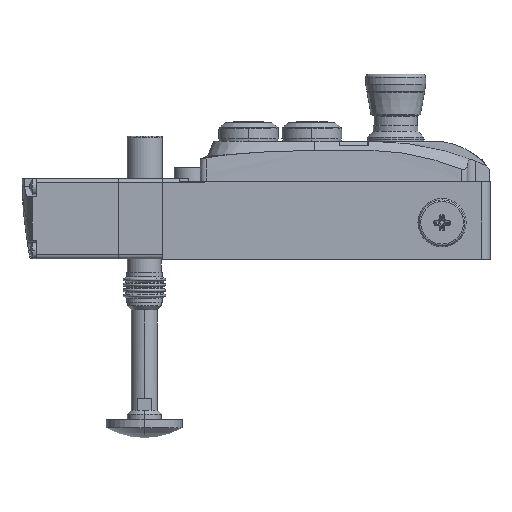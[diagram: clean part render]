
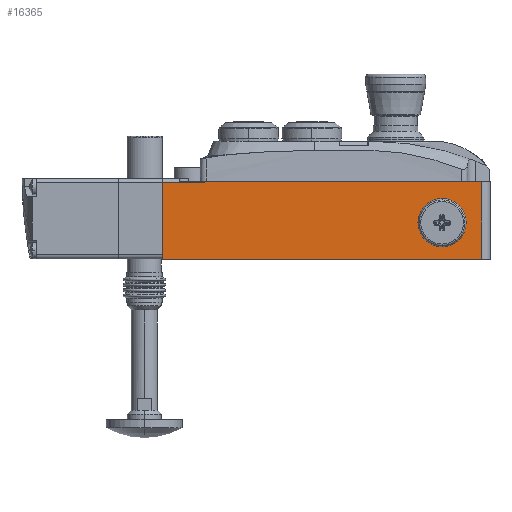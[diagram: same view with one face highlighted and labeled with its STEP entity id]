
A CAD part, left-side view. The second image highlights one B-rep face of the part: STEP entity #16365.
In plain terms, the highlighted planar face has unit normal (-1, 0, 0) as drawn and (0, -1, 0) by its records, which use the part's own axes.
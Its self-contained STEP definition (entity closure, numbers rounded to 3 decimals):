
#64 = ORIENTED_EDGE ( 'NONE', *, *, #23593, .F. ) ;
#246 = CARTESIAN_POINT ( 'NONE',  ( 5.5, -20., -18. ) ) ;
#284 = VECTOR ( 'NONE', #18422, 1000. ) ;
#333 = PLANE ( 'NONE',  #28916 ) ;
#353 = VECTOR ( 'NONE', #8007, 1000. ) ;
#641 = AXIS2_PLACEMENT_3D ( 'NONE', #3832, #28413, #3385 ) ;
#821 = EDGE_CURVE ( 'NONE', #14550, #4386, #18163, .T. ) ;
#1418 = ORIENTED_EDGE ( 'NONE', *, *, #4821, .T. ) ;
#1439 = CARTESIAN_POINT ( 'NONE',  ( 13.9, -20., 20.3 ) ) ;
#1630 = CARTESIAN_POINT ( 'NONE',  ( -145.4, -20., -18.5 ) ) ;
#2330 = CARTESIAN_POINT ( 'NONE',  ( -125.5, -20., -8. ) ) ;
#2427 = CARTESIAN_POINT ( 'NONE',  ( 13.9, -20., 20.3 ) ) ;
#2690 = ORIENTED_EDGE ( 'NONE', *, *, #4593, .T. ) ;
#2726 = CARTESIAN_POINT ( 'NONE',  ( -145.4, -20., 20.3 ) ) ;
#3341 = VERTEX_POINT ( 'NONE', #9627 ) ;
#3385 = DIRECTION ( 'NONE',  ( 0., 0., 1. ) ) ;
#3639 = CARTESIAN_POINT ( 'NONE',  ( -145.4, -20., 20.3 ) ) ;
#3791 = ORIENTED_EDGE ( 'NONE', *, *, #11846, .F. ) ;
#3832 = CARTESIAN_POINT ( 'NONE',  ( -125.5, -20., 2. ) ) ;
#4239 = DIRECTION ( 'NONE',  ( 0., 0., -1. ) ) ;
#4386 = VERTEX_POINT ( 'NONE', #5472 ) ;
#4593 = EDGE_CURVE ( 'NONE', #20416, #7219, #21562, .T. ) ;
#4697 = FACE_BOUND ( 'NONE', #9484, .T. ) ;
#4762 = VECTOR ( 'NONE', #4239, 1000. ) ;
#4821 = EDGE_CURVE ( 'NONE', #7219, #20416, #11601, .T. ) ;
#5472 = CARTESIAN_POINT ( 'NONE',  ( -7.2, -20., -18. ) ) ;
#5764 = DIRECTION ( 'NONE',  ( -1., 0., 0. ) ) ;
#7219 = VERTEX_POINT ( 'NONE', #21249 ) ;
#7245 = LINE ( 'NONE', #246, #284 ) ;
#8007 = DIRECTION ( 'NONE',  ( 0., 0., -1. ) ) ;
#8087 = DIRECTION ( 'NONE',  ( 0., 1., 0. ) ) ;
#9139 = VECTOR ( 'NONE', #27122, 1000. ) ;
#9484 = EDGE_LOOP ( 'NONE', ( #1418, #2690 ) ) ;
#9627 = CARTESIAN_POINT ( 'NONE',  ( -145.4, -20., 20.3 ) ) ;
#10929 = DIRECTION ( 'NONE',  ( -1., 0., 0. ) ) ;
#11601 = CIRCLE ( 'NONE', #12561, 10. ) ;
#11846 = EDGE_CURVE ( 'NONE', #27832, #12532, #20283, .T. ) ;
#12532 = VERTEX_POINT ( 'NONE', #24073 ) ;
#12561 = AXIS2_PLACEMENT_3D ( 'NONE', #28522, #8087, #12991 ) ;
#12700 = VECTOR ( 'NONE', #10929, 1000. ) ;
#12778 = LINE ( 'NONE', #12921, #353 ) ;
#12921 = CARTESIAN_POINT ( 'NONE',  ( -145.4, -20., 20.3 ) ) ;
#12991 = DIRECTION ( 'NONE',  ( 0., 0., 1. ) ) ;
#13603 = EDGE_LOOP ( 'NONE', ( #21344, #14283, #3791, #28069, #26698, #64 ) ) ;
#14026 = DIRECTION ( 'NONE',  ( 0., 1., 0. ) ) ;
#14189 = EDGE_CURVE ( 'NONE', #27832, #3341, #28678, .T. ) ;
#14283 = ORIENTED_EDGE ( 'NONE', *, *, #27810, .F. ) ;
#14550 = VERTEX_POINT ( 'NONE', #24007 ) ;
#15830 = DIRECTION ( 'NONE',  ( 0., 0., -1. ) ) ;
#16365 = ADVANCED_FACE ( 'NONE', ( #4697, #25502 ), #333, .F. ) ;
#16438 = VERTEX_POINT ( 'NONE', #1630 ) ;
#16734 = EDGE_CURVE ( 'NONE', #3341, #16438, #12778, .T. ) ;
#18007 = CARTESIAN_POINT ( 'NONE',  ( -7.2, -20., -25.7 ) ) ;
#18163 = LINE ( 'NONE', #18007, #9139 ) ;
#18422 = DIRECTION ( 'NONE',  ( -1., 0., 0. ) ) ;
#19436 = CARTESIAN_POINT ( 'NONE',  ( -145.4, -20., -18.5 ) ) ;
#20283 = LINE ( 'NONE', #2427, #4762 ) ;
#20416 = VERTEX_POINT ( 'NONE', #2330 ) ;
#20928 = VECTOR ( 'NONE', #5764, 1000. ) ;
#21249 = CARTESIAN_POINT ( 'NONE',  ( -125.5, -20., 12. ) ) ;
#21344 = ORIENTED_EDGE ( 'NONE', *, *, #821, .T. ) ;
#21562 = CIRCLE ( 'NONE', #641, 10. ) ;
#23593 = EDGE_CURVE ( 'NONE', #14550, #16438, #28571, .T. ) ;
#24007 = CARTESIAN_POINT ( 'NONE',  ( -7.2, -20., -18.5 ) ) ;
#24073 = CARTESIAN_POINT ( 'NONE',  ( 13.9, -20., -18. ) ) ;
#25502 = FACE_OUTER_BOUND ( 'NONE', #13603, .T. ) ;
#26698 = ORIENTED_EDGE ( 'NONE', *, *, #16734, .T. ) ;
#27122 = DIRECTION ( 'NONE',  ( 0., 0., 1. ) ) ;
#27810 = EDGE_CURVE ( 'NONE', #12532, #4386, #7245, .T. ) ;
#27832 = VERTEX_POINT ( 'NONE', #1439 ) ;
#28069 = ORIENTED_EDGE ( 'NONE', *, *, #14189, .T. ) ;
#28413 = DIRECTION ( 'NONE',  ( 0., 1., 0. ) ) ;
#28522 = CARTESIAN_POINT ( 'NONE',  ( -125.5, -20., 2. ) ) ;
#28571 = LINE ( 'NONE', #19436, #20928 ) ;
#28678 = LINE ( 'NONE', #3639, #12700 ) ;
#28916 = AXIS2_PLACEMENT_3D ( 'NONE', #2726, #14026, #15830 ) ;
